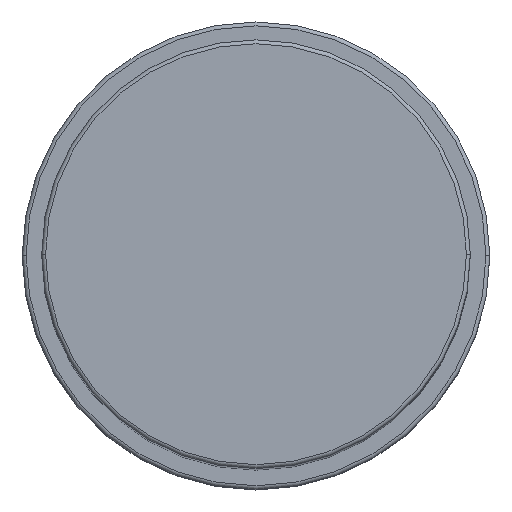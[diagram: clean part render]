
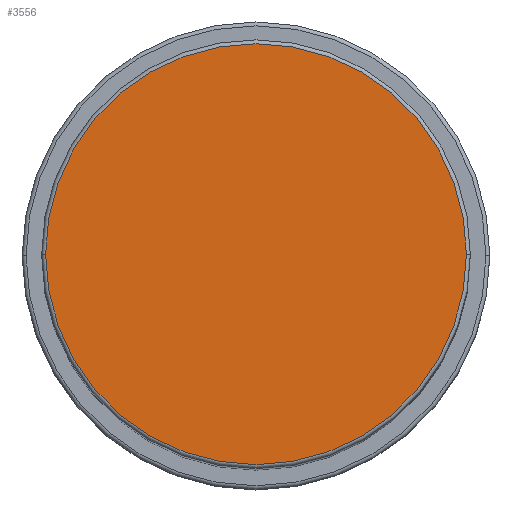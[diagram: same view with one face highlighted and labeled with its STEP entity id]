
A CAD part, top view. The second image highlights one B-rep face of the part: STEP entity #3556.
In plain terms, the highlighted planar face has unit normal (0, 0, 1).
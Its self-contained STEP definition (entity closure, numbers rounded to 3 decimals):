
#169 = AXIS2_PLACEMENT_3D ( 'NONE', #1043, #4461, #3736 ) ;
#602 = CARTESIAN_POINT ( 'NONE',  ( 0., 0., 133. ) ) ;
#854 = FACE_OUTER_BOUND ( 'NONE', #1446, .T. ) ;
#996 = VERTEX_POINT ( 'NONE', #3378 ) ;
#1024 = EDGE_CURVE ( 'NONE', #996, #4481, #3276, .T. ) ;
#1043 = CARTESIAN_POINT ( 'NONE',  ( 0., 0., 133. ) ) ;
#1391 = DIRECTION ( 'NONE',  ( 0., 0., 1. ) ) ;
#1446 = EDGE_LOOP ( 'NONE', ( #2696, #4580 ) ) ;
#1877 = DIRECTION ( 'NONE',  ( 1., 0., 0. ) ) ;
#1929 = PLANE ( 'NONE',  #2722 ) ;
#2696 = ORIENTED_EDGE ( 'NONE', *, *, #3030, .T. ) ;
#2722 = AXIS2_PLACEMENT_3D ( 'NONE', #4593, #3862, #1877 ) ;
#3030 = EDGE_CURVE ( 'NONE', #4481, #996, #4865, .T. ) ;
#3276 = CIRCLE ( 'NONE', #169, 27. ) ;
#3378 = CARTESIAN_POINT ( 'NONE',  ( -27., 0., 133. ) ) ;
#3459 = AXIS2_PLACEMENT_3D ( 'NONE', #602, #1391, #4447 ) ;
#3556 = ADVANCED_FACE ( 'NONE', ( #854 ), #1929, .T. ) ;
#3736 = DIRECTION ( 'NONE',  ( 1., 0., 0. ) ) ;
#3862 = DIRECTION ( 'NONE',  ( 0., 0., 1. ) ) ;
#4201 = CARTESIAN_POINT ( 'NONE',  ( 27., 0., 133. ) ) ;
#4447 = DIRECTION ( 'NONE',  ( 1., 0., 0. ) ) ;
#4461 = DIRECTION ( 'NONE',  ( 0., 0., 1. ) ) ;
#4481 = VERTEX_POINT ( 'NONE', #4201 ) ;
#4580 = ORIENTED_EDGE ( 'NONE', *, *, #1024, .T. ) ;
#4593 = CARTESIAN_POINT ( 'NONE',  ( 0., 0., 133. ) ) ;
#4865 = CIRCLE ( 'NONE', #3459, 27. ) ;
